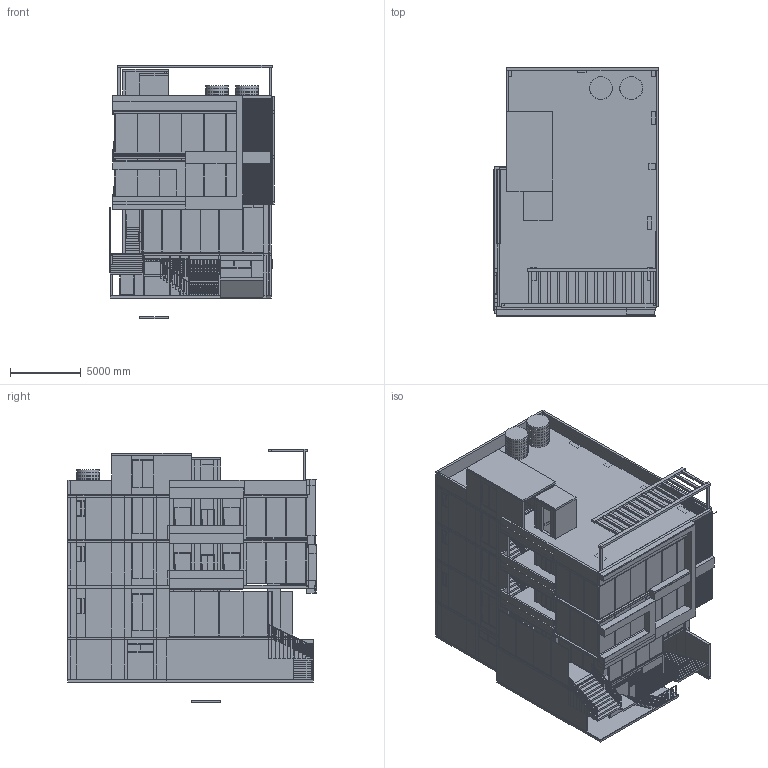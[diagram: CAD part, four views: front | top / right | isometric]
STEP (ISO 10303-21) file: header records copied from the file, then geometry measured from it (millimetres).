
FILE_DESCRIPTION(('Open CASCADE Model'),'2;1');
FILE_NAME('Open CASCADE Shape Model','2026-09-13T12:01:42',('Author'),( 'Open CASCADE'),'Open CASCADE STEP processor 7.7','Open CASCADE 7.7' ,'Unknown');
FILE_SCHEMA(('AUTOMOTIVE_DESIGN { 1 0 10303 214 1 1 1 1 }'));
Length unit declared in the file: millimetre
Products named in the file (2915): Indiranagar_Enhanced_E01; B_slabs_0000_B_floor_slab; B_slabs_0000_B_floor_slab_part; B_floors_0001_B_floor_finish; B_floors_0001_B_floor_finish_part; G_slabs_0002_G_floor_slab; G_slabs_0002_G_floor_slab_part; G_floors_0003_G_floor_finish; G_floors_0003_G_floor_finish_part; F1_slabs_0004_F1_floor_slab; F1_slabs_0004_F1_floor_slab_part; F1_floors_0005_F1_floor_finish; F1_floors_0005_F1_floor_finish_part; F2_slabs_0006_F2_floor_slab; F2_slabs_0006_F2_floor_slab_part; F2_floors_0007_F2_floor_finish; F2_floors_0007_F2_floor_finish_part; T_slabs_0008_T_floor_slab; T_slabs_0008_T_floor_slab_part; T_floors_0009_T_floor_finish; T_floors_0009_T_floor_finish_part; G_slabs_0010_Local_thicker_basement_roof_slab; G_slabs_0010_Local_thicker_basement_roof_slab_part; B_columns_0011_B_column_1; B_columns_0011_B_column_1_part; B_columns_0012_B_column_2; B_columns_0012_B_column_2_part; B_columns_0013_B_column_3; B_columns_0013_B_column_3_part; B_columns_0014_B_column_4; B_columns_0014_B_column_4_part; B_columns_0015_B_column_5; B_columns_0015_B_column_5_part; B_columns_0016_B_column_6; B_columns_0016_B_column_6_part; B_columns_0017_B_column_7; B_columns_0017_B_column_7_part; B_columns_0018_B_column_8; B_columns_0018_B_column_8_part; B_columns_0019_B_column_9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
Assembly tree (2914 placements, depth 3):
  Indiranagar_Enhanced_E01
    B_slabs_0000_B_floor_slab
      B_slabs_0000_B_floor_slab_part
    B_floors_0001_B_floor_finish
      B_floors_0001_B_floor_finish_part
    G_slabs_0002_G_floor_slab
      G_slabs_0002_G_floor_slab_part
    G_floors_0003_G_floor_finish
      G_floors_0003_G_floor_finish_part
    F1_slabs_0004_F1_floor_slab
      F1_slabs_0004_F1_floor_slab_part
    F1_floors_0005_F1_floor_finish
      F1_floors_0005_F1_floor_finish_part
    F2_slabs_0006_F2_floor_slab
      F2_slabs_0006_F2_floor_slab_part
    F2_floors_0007_F2_floor_finish
      F2_floors_0007_F2_floor_finish_part
    T_slabs_0008_T_floor_slab
      T_slabs_0008_T_floor_slab_part
    T_floors_0009_T_floor_finish
      T_floors_0009_T_floor_finish_part
    G_slabs_0010_Local_thicker_basement_roof_slab
      G_slabs_0010_Local_thicker_basement_roof_slab_part
    B_columns_0011_B_column_1
      B_columns_0011_B_column_1_part
    B_columns_0012_B_column_2
      B_columns_0012_B_column_2_part
    B_columns_0013_B_column_3
      B_columns_0013_B_column_3_part
    B_columns_0014_B_column_4
      B_columns_0014_B_column_4_part
    B_columns_0015_B_column_5
      B_columns_0015_B_column_5_part
    B_columns_0016_B_column_6
      B_columns_0016_B_column_6_part
    B_columns_0017_B_column_7
      B_columns_0017_B_column_7_part
    B_columns_0018_B_column_8
      B_columns_0018_B_column_8_part
    B_columns_0019_B_column_9
      B_columns_0019_B_column_9_part
    B_columns_0020_B_column_10
      B_columns_0020_B_column_10_part
    B_columns_0021_B_column_11
      B_columns_0021_B_column_11_part
    G_columns_0022_G_column_1
      G_columns_0022_G_column_1_part
    G_columns_0023_G_column_2
      G_columns_0023_G_column_2_part
    G_columns_0024_G_column_3
      G_columns_0024_G_column_3_part
    G_columns_0025_G_column_4
      G_columns_0025_G_column_4_part
    G_columns_0026_G_column_5
      G_columns_0026_G_column_5_part
    G_columns_0027_G_column_6
      G_columns_0027_G_column_6_part
    G_columns_0028_G_column_7
      G_columns_0028_G_column_7_part
    G_columns_0029_G_column_8
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Bounding box: 11604.29 x 17512.67 x 17907 mm (x, y, z)
Volume: 402036808241.6 mm3; surface area: 7192771457.8 mm2
Topology: 1457 solids, 1457 shells, 7909 faces, 14985 edges, 9990 vertices
Faces by surface type: plane 7545, cylinder 364
Full cylindrical faces by diameter (mm): 15.24 x317, 30.48 x10, 40.64 x21, 1600.2 x2, 1625.6 x14
Entity records: 450802 total; most frequent: DIRECTION 67331, CARTESIAN_POINT 65769, LINE 43499, VECTOR 43499, ORIENTED_EDGE 29970, PCURVE 29970, DEFINITIONAL_REPRESENTATION 29970, EDGE_CURVE 14985
